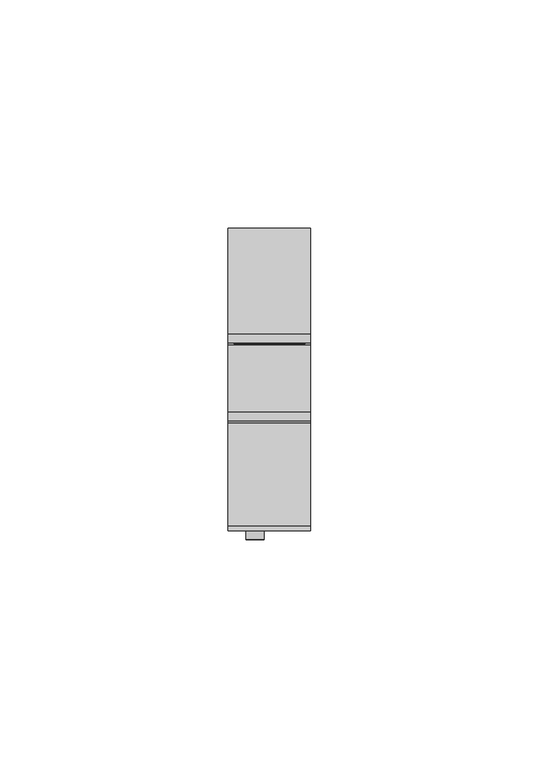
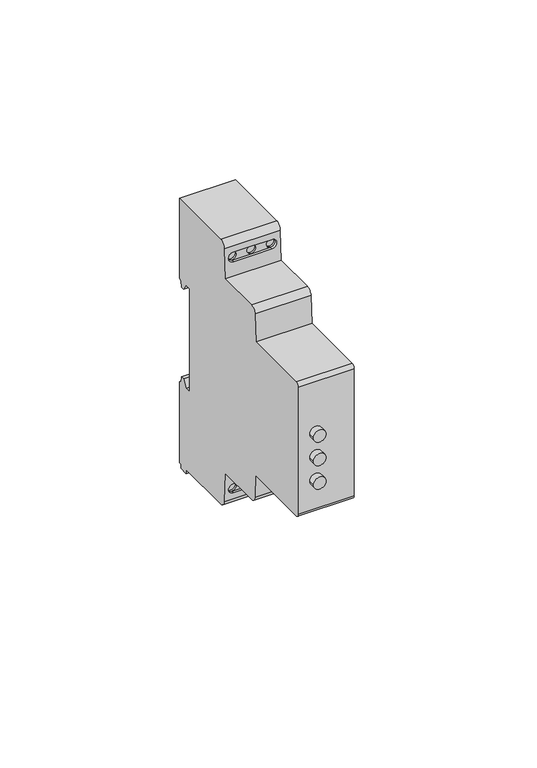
"""IFC4 building model written with IfcOpenShell, lengths in millimetres: proxy geometry, TDM_РЕЛЕ КОНТРОЛЯ НАПРЯЖЕНИЯ СЕРИИ РН 1 : 5А."""

from ifc_helpers import new_model, si_unit, point, frame, frame_2d, origin, place, context, project, spatial, polyline, circle_curve, ellipse_curve, trimmed, segment, composite_curve, outline, extrude, source, transform, mapped, element, save
from ifc_brep_helpers import plane_surface, cylinder_surface, revolved_surface, advanced_brep


def electrical_equipment_9e60928d(model_context):
    return source(origin(), model_context, "Body", "SolidModel", [
        extrude(outline(composite_curve([segment(trimmed(circle_curve(frame_2d((3.3743959, -3.125)), 2.0), [point((3.3743959, -5.125))], [point((3.3743959, -1.125))], False, "CARTESIAN"), True, "CONTINUOUS"), segment(trimmed(circle_curve(frame_2d((3.3743959, -3.125)), 2.0), [point((3.3743959, -1.125))], [point((3.3743959, -5.125))], False, "CARTESIAN"), True, "CONTINUOUS")], self_intersect=False)), frame((0.0, -30.5593993, 0.0), z_axis=(0.0, 1.0, 0.0), x_axis=(0.0, 0.0, 1.0)), (0.0, 0.0, 1.0), 3.0593993),
        extrude(outline(composite_curve([segment(trimmed(circle_curve(frame_2d((-4.6256041, -3.125)), 2.0), [point((-4.6256041, -5.125))], [point((-4.6256041, -1.125))], False, "CARTESIAN"), True, "CONTINUOUS"), segment(trimmed(circle_curve(frame_2d((-4.6256041, -3.125)), 2.0), [point((-4.6256041, -1.125))], [point((-4.6256041, -5.125))], False, "CARTESIAN"), True, "CONTINUOUS")], self_intersect=False)), frame((0.0, -30.5593993, 0.0), z_axis=(0.0, 1.0, 0.0), x_axis=(0.0, 0.0, 1.0)), (0.0, 0.0, 1.0), 3.0593993),
        extrude(outline(composite_curve([segment(trimmed(circle_curve(frame_2d((-12.6256041, -3.125)), 2.0), [point((-12.6256041, -5.125))], [point((-12.6256041, -1.125))], False, "CARTESIAN"), True, "CONTINUOUS"), segment(trimmed(circle_curve(frame_2d((-12.6256041, -3.125)), 2.0), [point((-12.6256041, -1.125))], [point((-12.6256041, -5.125))], False, "CARTESIAN"), True, "CONTINUOUS")], self_intersect=False)), frame((0.0, -30.5593993, 0.0), z_axis=(0.0, 1.0, 0.0), x_axis=(0.0, 0.0, 1.0)), (0.0, 0.0, 1.0), 3.0593993),
        extrude(outline(polyline([(7.75, 16.6821204), (7.75, 14.1138713), (-7.75, 14.1138713), (-7.75, 16.6821204), (7.75, 16.6821204)])), frame((0.0, 0.0, -44.0625), z_axis=(0.0, 0.0, 1.0), x_axis=(1.0, 0.0, 0.0)), (0.0, 0.0, 1.0), 87.8126081),
        advanced_brep(
        [(9.0, 31.7632568, 17.7057143), (9.0, 33.7632568, 17.7057143), (9.0, 35.0790621, 15.4266726), (9.0, 36.2042493, 15.4266726), (9.0, 36.5256071, 17.2491835), (9.0, 37.5, 17.8117495), (9.0, 37.5, 45.0), (9.0, 14.5, 45.0), (9.0, 12.5, 43.0), (9.0, 11.9790691, 33.0600462), (9.0, -2.6020709, 33.0600462), (9.0, -4.5993299, 31.1647181), (9.0, -5.0796325, 22.0), (9.0, -27.5777313, 22.0), (9.0, -28.7, 20.8777313), (9.0, -28.7, -22.3875602), (9.0, -27.5875602, -23.5), (9.0, -5.0010208, -23.5), (9.0, -4.5993299, -31.1647181), (9.0, -2.6020709, -33.0600462), (9.0, 11.9790691, -33.0600462), (9.0, 12.5, -43.0), (9.0, 14.5, -45.0), (9.0, 33.7, -45.0), (9.0, 33.7, -46.4), (9.0, 36.7, -46.4), (9.0, 36.7, -45.0), (9.0, 37.5, -45.0), (9.0, 37.5, -17.4003208), (9.0, 36.5256071, -16.8377548), (9.0, 36.2042493, -15.0152439), (9.0, 35.0790621, -15.0152439), (9.0, 33.7632568, -17.2942857), (9.0, 31.7632568, -17.2942857), (-9.0, 31.7632568, 17.7057143), (-9.0, 31.7632568, -17.2942857), (-9.0, 33.7632568, -17.2942857), (-9.0, 35.0790621, -15.0152439), (-9.0, 36.2042493, -15.0152439), (-9.0, 36.5256071, -16.8377548), (-9.0, 37.5, -17.4003208), (-9.0, 37.5, -45.0), (-9.0, 36.7, -45.0), (-9.0, 36.7, -46.4), (-9.0, 33.7, -46.4), (-9.0, 33.7, -45.0), (-9.0, 14.5, -45.0), (-9.0, 12.5, -43.0), (-9.0, 11.9790691, -33.0600462), (-9.0, -2.6020709, -33.0600462), (-9.0, -4.5993299, -31.1647181), (-9.0, -5.0010208, -23.5), (-9.0, -27.5875602, -23.5), (-9.0, -28.7, -22.3875602), (-9.0, -28.7, 20.8777313), (-9.0, -27.5777313, 22.0), (-9.0, -5.0796325, 22.0), (-9.0, -4.5993299, 31.1647181), (-9.0, -2.6020709, 33.0600462), (-9.0, 11.9790691, 33.0600462), (-9.0, 12.5, 43.0), (-9.0, 14.5, 45.0), (-9.0, 37.5, 45.0), (-9.0, 37.5, 17.8117495), (-9.0, 36.5256071, 17.2491835), (-9.0, 36.2042493, 15.4266726), (-9.0, 35.0790621, 15.4266726), (-9.0, 33.7632568, 17.7057143), (6.25, 13.0378948, -37.8135116), (0.0239013, 13.0378948, -37.8135116), (1.5239013, 13.0378948, -39.3135116), (0.0239013, 13.0378948, -40.8135116), (6.25, 13.0378948, -40.8135116), (4.75, 13.0378948, -39.3135116), (-6.25, 13.0378948, -37.8135116), (-4.75, 13.0378948, -39.3135116), (-6.25, 13.0378948, -40.8135116), (-1.4760987, 13.0378948, -39.3135116), (6.25, 13.0378948, 40.8135116), (0.0239013, 13.0378948, 40.8135116), (1.5239013, 13.0378948, 39.3135116), (0.0239013, 13.0378948, 37.8135116), (6.25, 13.0378948, 37.8135116), (4.75, 13.0378948, 39.3135116), (-6.25, 13.0378948, 40.8135116), (-4.75, 13.0378948, 39.3135116), (-6.25, 13.0378948, 37.8135116), (-1.4760987, 13.0378948, 39.3135116), (6.25, 12.2281877, 37.8135116), (0.0239013, 12.2281877, 37.8135116), (-6.25, 12.2281877, 37.8135116), (-7.75, 12.3067993, 39.3135116), (-6.25, 12.385411, 40.8135116), (0.0239013, 12.385411, 40.8135116), (6.25, 12.385411, 40.8135116), (7.75, 12.3067993, 39.3135116), (0.0239013, 12.2281877, -37.8135116), (6.25, 12.2281877, -37.8135116), (7.75, 12.3067993, -39.3135116), (6.25, 12.385411, -40.8135116), (0.0239013, 12.385411, -40.8135116), (-6.25, 12.385411, -40.8135116), (-7.75, 12.3067993, -39.3135116), (-6.25, 12.2281877, -37.8135116), (-7.75, 13.0378948, -39.3135116), (7.75, 13.0378948, -39.3135116), (7.75, 13.0378948, 39.3135116), (-7.75, 13.0378948, 39.3135116), (-4.75, 15.2465164, -39.3135116), (-7.75, 15.2465164, -39.3135116), (1.5239013, 15.2465164, -39.3135116), (-1.4760987, 15.2465164, -39.3135116), (4.75, 15.2465164, -39.3135116), (7.75, 15.2465164, -39.3135116), (-4.75, 15.2465164, 39.3135116), (-7.75, 15.2465164, 39.3135116), (1.5239013, 15.2465164, 39.3135116), (-1.4760987, 15.2465164, 39.3135116), (4.75, 15.2465164, 39.3135116), (7.75, 15.2465164, 39.3135116)],
        [
            (0, 1),
            (1, 2),
            (2, 3),
            (3, 4),
            (4, 5),
            (5, 6),
            (6, 7),
            (7, 8, circle_curve(frame((9.0, 14.5, 43.0), z_axis=(1.0, 0.0, 0.0), x_axis=(0.0, -1.0, 0.0)), 2.0)),
            (8, 9),
            (9, 10),
            (10, 11, circle_curve(frame((9.0, -2.6020709, 31.0600462), z_axis=(1.0, 0.0, 0.0), x_axis=(0.0, -1.0, 0.0)), 2.0)),
            (11, 12),
            (12, 13),
            (13, 14, circle_curve(frame((9.0, -27.5777313, 20.8777313), z_axis=(1.0, 0.0, 0.0), x_axis=(0.0, -1.0, 0.0)), 1.1222687)),
            (14, 15),
            (15, 16, circle_curve(frame((9.0, -27.5875602, -22.3875602), z_axis=(1.0, 0.0, 0.0), x_axis=(0.0, -1.0, 0.0)), 1.1124398)),
            (16, 17),
            (17, 18),
            (18, 19, circle_curve(frame((9.0, -2.6020709, -31.0600462), z_axis=(1.0, 0.0, 0.0), x_axis=(0.0, -1.0, 0.0)), 2.0)),
            (19, 20),
            (20, 21),
            (21, 22, circle_curve(frame((9.0, 14.5, -43.0), z_axis=(1.0, 0.0, 0.0), x_axis=(0.0, -1.0, 0.0)), 2.0)),
            (22, 23),
            (23, 24),
            (24, 25),
            (25, 26),
            (26, 27),
            (27, 28),
            (28, 29),
            (29, 30),
            (30, 31),
            (31, 32),
            (32, 33),
            (33, 0),
            (34, 35),
            (35, 36),
            (36, 37),
            (37, 38),
            (38, 39),
            (39, 40),
            (40, 41),
            (41, 42),
            (42, 43),
            (43, 44),
            (44, 45),
            (45, 46),
            (46, 47, circle_curve(frame((-9.0, 14.5, -43.0), z_axis=(-1.0, 0.0, 0.0), x_axis=(0.0, -1.0, 0.0)), 2.0)),
            (47, 48),
            (48, 49),
            (49, 50, circle_curve(frame((-9.0, -2.6020709, -31.0600462), z_axis=(-1.0, 0.0, 0.0), x_axis=(0.0, -1.0, 0.0)), 2.0)),
            (50, 51),
            (51, 52),
            (52, 53, circle_curve(frame((-9.0, -27.5875602, -22.3875602), z_axis=(-1.0, 0.0, 0.0), x_axis=(0.0, -1.0, 0.0)), 1.1124398)),
            (53, 54),
            (54, 55, circle_curve(frame((-9.0, -27.5777313, 20.8777313), z_axis=(-1.0, 0.0, 0.0), x_axis=(0.0, -1.0, 0.0)), 1.1222687)),
            (55, 56),
            (56, 57),
            (57, 58, circle_curve(frame((-9.0, -2.6020709, 31.0600462), z_axis=(-1.0, 0.0, 0.0), x_axis=(0.0, -1.0, 0.0)), 2.0)),
            (58, 59),
            (59, 60),
            (60, 61, circle_curve(frame((-9.0, 14.5, 43.0), z_axis=(-1.0, 0.0, 0.0), x_axis=(0.0, -1.0, 0.0)), 2.0)),
            (61, 62),
            (62, 63),
            (63, 64),
            (64, 65),
            (65, 66),
            (66, 67),
            (67, 34),
            (68, 69),
            (69, 70, circle_curve(frame((0.0239013, 13.0378948, -39.3135116), z_axis=(0.0, 1.0, 0.0), x_axis=(-1.0, 0.0, 0.0)), 1.5)),
            (70, 71, circle_curve(frame((0.0239013, 13.0378948, -39.3135116), z_axis=(0.0, 1.0, 0.0), x_axis=(-1.0, 0.0, 0.0)), 1.5)),
            (71, 72),
            (72, 73, circle_curve(frame((6.25, 13.0378948, -39.3135116), z_axis=(0.0, 1.0, 0.0), x_axis=(1.0, 0.0, 0.0)), 1.5)),
            (73, 68, circle_curve(frame((6.25, 13.0378948, -39.3135116), z_axis=(0.0, 1.0, 0.0), x_axis=(1.0, 0.0, 0.0)), 1.5)),
            (69, 74),
            (74, 75, circle_curve(frame((-6.25, 13.0378948, -39.3135116), z_axis=(0.0, 1.0, 0.0), x_axis=(-1.0, 0.0, 0.0)), 1.5)),
            (75, 76, circle_curve(frame((-6.25, 13.0378948, -39.3135116), z_axis=(0.0, 1.0, 0.0), x_axis=(-1.0, 0.0, 0.0)), 1.5)),
            (76, 71),
            (71, 77, circle_curve(frame((0.0239013, 13.0378948, -39.3135116), z_axis=(0.0, 1.0, 0.0), x_axis=(-1.0, 0.0, 0.0)), 1.5)),
            (77, 69, circle_curve(frame((0.0239013, 13.0378948, -39.3135116), z_axis=(0.0, 1.0, 0.0), x_axis=(-1.0, 0.0, 0.0)), 1.5)),
            (78, 79),
            (79, 80, circle_curve(frame((0.0239013, 13.0378948, 39.3135116), z_axis=(0.0, 1.0, 0.0), x_axis=(-1.0, 0.0, 0.0)), 1.5)),
            (80, 81, circle_curve(frame((0.0239013, 13.0378948, 39.3135116), z_axis=(0.0, 1.0, 0.0), x_axis=(-1.0, 0.0, 0.0)), 1.5)),
            (81, 82),
            (82, 83, circle_curve(frame((6.25, 13.0378948, 39.3135116), z_axis=(0.0, 1.0, 0.0), x_axis=(1.0, 0.0, 0.0)), 1.5)),
            (83, 78, circle_curve(frame((6.25, 13.0378948, 39.3135116), z_axis=(0.0, 1.0, 0.0), x_axis=(1.0, 0.0, 0.0)), 1.5)),
            (79, 84),
            (84, 85, circle_curve(frame((-6.25, 13.0378948, 39.3135116), z_axis=(0.0, 1.0, 0.0), x_axis=(-1.0, 0.0, 0.0)), 1.5)),
            (85, 86, circle_curve(frame((-6.25, 13.0378948, 39.3135116), z_axis=(0.0, 1.0, 0.0), x_axis=(-1.0, 0.0, 0.0)), 1.5)),
            (86, 81),
            (81, 87, circle_curve(frame((0.0239013, 13.0378948, 39.3135116), z_axis=(0.0, 1.0, 0.0), x_axis=(-1.0, 0.0, 0.0)), 1.5)),
            (87, 79, circle_curve(frame((0.0239013, 13.0378948, 39.3135116), z_axis=(0.0, 1.0, 0.0), x_axis=(-1.0, 0.0, 0.0)), 1.5)),
            (0, 34),
            (67, 1),
            (66, 2),
            (65, 3),
            (64, 4),
            (63, 5),
            (62, 6),
            (61, 7),
            (60, 8),
            (59, 9),
            (88, 89),
            (89, 90),
            (90, 91, ellipse_curve(frame((-6.25, 12.3067993, 39.3135116), z_axis=(0.0, 0.9986295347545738, -0.052335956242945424), x_axis=(0.0, -0.052335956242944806, -0.9986295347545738)), 1.5020585, 1.5)),
            (91, 92, ellipse_curve(frame((-6.25, 12.3067993, 39.3135116), z_axis=(0.0, 0.9986295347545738, -0.052335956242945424), x_axis=(0.0, -0.052335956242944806, -0.9986295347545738)), 1.5020585, 1.5)),
            (92, 93),
            (93, 94),
            (94, 95, ellipse_curve(frame((6.25, 12.3067993, 39.3135116), z_axis=(0.0, 0.9986295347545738, -0.052335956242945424), x_axis=(0.0, -0.052335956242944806, -0.9986295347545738)), 1.5020585, 1.5)),
            (95, 88, ellipse_curve(frame((6.25, 12.3067993, 39.3135116), z_axis=(0.0, 0.9986295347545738, -0.052335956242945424), x_axis=(0.0, -0.052335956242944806, -0.9986295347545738)), 1.5020585, 1.5)),
            (58, 10),
            (57, 11),
            (56, 12),
            (55, 13),
            (54, 14),
            (53, 15),
            (16, 52),
            (51, 17),
            (50, 18),
            (49, 19),
            (48, 20),
            (47, 21),
            (96, 97),
            (97, 98, ellipse_curve(frame((6.25, 12.3067993, -39.3135116), z_axis=(0.0, 0.9986295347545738, 0.05233595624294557), x_axis=(0.0, -0.05233595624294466, 0.9986295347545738)), 1.5020585, 1.5)),
            (98, 99, ellipse_curve(frame((6.25, 12.3067993, -39.3135116), z_axis=(0.0, 0.9986295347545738, 0.05233595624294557), x_axis=(0.0, -0.05233595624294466, 0.9986295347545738)), 1.5020585, 1.5)),
            (99, 100),
            (100, 101),
            (101, 102, ellipse_curve(frame((-6.25, 12.3067993, -39.3135116), z_axis=(0.0, 0.9986295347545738, 0.05233595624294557), x_axis=(0.0, -0.05233595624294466, 0.9986295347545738)), 1.5020585, 1.5)),
            (102, 103, ellipse_curve(frame((-6.25, 12.3067993, -39.3135116), z_axis=(0.0, 0.9986295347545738, 0.05233595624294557), x_axis=(0.0, -0.05233595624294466, 0.9986295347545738)), 1.5020585, 1.5)),
            (103, 96),
            (46, 22),
            (45, 23),
            (24, 44),
            (43, 25),
            (42, 26),
            (27, 41),
            (40, 28),
            (39, 29),
            (38, 30),
            (37, 31),
            (36, 32),
            (35, 33),
            (68, 97),
            (103, 74),
            (101, 76),
            (76, 104, circle_curve(frame((-6.25, 13.0378948, -39.3135116), z_axis=(0.0, 1.0, 0.0), x_axis=(-1.0, 0.0, 0.0)), 1.5)),
            (104, 74, circle_curve(frame((-6.25, 13.0378948, -39.3135116), z_axis=(0.0, 1.0, 0.0), x_axis=(-1.0, 0.0, 0.0)), 1.5)),
            (99, 72),
            (68, 105, circle_curve(frame((6.25, 13.0378948, -39.3135116), z_axis=(0.0, 1.0, 0.0), x_axis=(1.0, 0.0, 0.0)), 1.5)),
            (105, 72, circle_curve(frame((6.25, 13.0378948, -39.3135116), z_axis=(0.0, 1.0, 0.0), x_axis=(1.0, 0.0, 0.0)), 1.5)),
            (82, 88),
            (94, 78),
            (78, 106, circle_curve(frame((6.25, 13.0378948, 39.3135116), z_axis=(0.0, 1.0, 0.0), x_axis=(1.0, 0.0, 0.0)), 1.5)),
            (106, 82, circle_curve(frame((6.25, 13.0378948, 39.3135116), z_axis=(0.0, 1.0, 0.0), x_axis=(1.0, 0.0, 0.0)), 1.5)),
            (92, 84),
            (90, 86),
            (86, 107, circle_curve(frame((-6.25, 13.0378948, 39.3135116), z_axis=(0.0, 1.0, 0.0), x_axis=(-1.0, 0.0, 0.0)), 1.5)),
            (107, 84, circle_curve(frame((-6.25, 13.0378948, 39.3135116), z_axis=(0.0, 1.0, 0.0), x_axis=(-1.0, 0.0, 0.0)), 1.5)),
            (108, 109, circle_curve(frame((-6.25, 15.2465164, -39.3135116), z_axis=(0.0, -1.0, 0.0), x_axis=(-1.0, 0.0, 0.0)), 1.5)),
            (109, 108, circle_curve(frame((-6.25, 15.2465164, -39.3135116), z_axis=(0.0, -1.0, 0.0), x_axis=(-1.0, 0.0, 0.0)), 1.5)),
            (110, 111, circle_curve(frame((0.0239013, 15.2465164, -39.3135116), z_axis=(0.0, -1.0, 0.0), x_axis=(-1.0, 0.0, 0.0)), 1.5)),
            (111, 110, circle_curve(frame((0.0239013, 15.2465164, -39.3135116), z_axis=(0.0, -1.0, 0.0), x_axis=(-1.0, 0.0, 0.0)), 1.5)),
            (112, 113, circle_curve(frame((6.25, 15.2465164, -39.3135116), z_axis=(0.0, -1.0, 0.0), x_axis=(1.0, 0.0, 0.0)), 1.5)),
            (113, 112, circle_curve(frame((6.25, 15.2465164, -39.3135116), z_axis=(0.0, -1.0, 0.0), x_axis=(1.0, 0.0, 0.0)), 1.5)),
            (114, 115, circle_curve(frame((-6.25, 15.2465164, 39.3135116), z_axis=(0.0, -1.0, 0.0), x_axis=(-1.0, 0.0, 0.0)), 1.5)),
            (115, 114, circle_curve(frame((-6.25, 15.2465164, 39.3135116), z_axis=(0.0, -1.0, 0.0), x_axis=(-1.0, 0.0, 0.0)), 1.5)),
            (116, 117, circle_curve(frame((0.0239013, 15.2465164, 39.3135116), z_axis=(0.0, -1.0, 0.0), x_axis=(-1.0, 0.0, 0.0)), 1.5)),
            (117, 116, circle_curve(frame((0.0239013, 15.2465164, 39.3135116), z_axis=(0.0, -1.0, 0.0), x_axis=(-1.0, 0.0, 0.0)), 1.5)),
            (118, 119, circle_curve(frame((6.25, 15.2465164, 39.3135116), z_axis=(0.0, -1.0, 0.0), x_axis=(1.0, 0.0, 0.0)), 1.5)),
            (119, 118, circle_curve(frame((6.25, 15.2465164, 39.3135116), z_axis=(0.0, -1.0, 0.0), x_axis=(1.0, 0.0, 0.0)), 1.5)),
            (108, 75),
            (104, 109),
            (110, 70),
            (77, 111),
            (112, 73),
            (105, 113),
            (114, 85),
            (107, 115),
            (116, 80),
            (87, 117),
            (118, 83),
            (106, 119),
        ],
        [
            plane_surface(frame((9.0, 31.7632568, 17.7057143), z_axis=(1.0, 0.0, 0.0), x_axis=(0.0, 1.0, 0.0))),
            plane_surface(frame((-9.0, 31.7632568, 17.7057143), z_axis=(-1.0, 0.0, 0.0), x_axis=(0.0, -1.0, 0.0))),
            plane_surface(frame((-7.75, 13.0378948, -37.8135116), z_axis=(0.0, -1.0, 0.0), x_axis=(1.0, 0.0, 0.0))),
            plane_surface(frame((9.0, 31.7632568, 17.7057143), z_axis=(0.0, 0.0, -1.0), x_axis=(-1.0, 0.0, 0.0))),
            plane_surface(frame((9.0, 33.7632568, 17.7057143), z_axis=(0.0, -0.8660254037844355, -0.5000000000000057), x_axis=(-1.0, 0.0, 0.0))),
            plane_surface(frame((9.0, 35.0790621, 15.4266726), z_axis=(0.0, 0.0, -1.0), x_axis=(-1.0, 0.0, 0.0))),
            plane_surface(frame((9.0, 36.2042493, 15.4266726), z_axis=(0.0, 0.984807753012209, -0.17364817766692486), x_axis=(-1.0, 0.0, 0.0))),
            plane_surface(frame((9.0, 36.5256071, 17.2491835), z_axis=(0.0, 0.5000000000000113, -0.8660254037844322), x_axis=(-1.0, 0.0, 0.0))),
            plane_surface(frame((9.0, 37.5, 17.8117495), z_axis=(0.0, 1.0, 0.0), x_axis=(-1.0, 0.0, 0.0))),
            plane_surface(frame((9.0, 37.5, 45.0), z_axis=(0.0, 0.0, 1.0), x_axis=(-1.0, 0.0, 0.0))),
            cylinder_surface(frame((-9.0, 14.5, 43.0), z_axis=(1.0, 0.0, 0.0), x_axis=(0.0, -1.0, 0.0)), 2.0),
            plane_surface(frame((9.0, 12.5, 43.0), z_axis=(0.0, -0.9986295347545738, 0.052335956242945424), x_axis=(-1.0, 0.0, 0.0))),
            plane_surface(frame((9.0, 11.9790691, 33.0600462), z_axis=(0.0, 0.0, 1.0), x_axis=(-1.0, 0.0, 0.0))),
            cylinder_surface(frame((-9.0, -2.6020709, 31.0600462), z_axis=(1.0, 0.0, 0.0), x_axis=(0.0, -1.0, 0.0)), 2.0),
            plane_surface(frame((9.0, -4.5993299, 31.1647181), z_axis=(0.0, -0.9986295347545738, 0.052335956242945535), x_axis=(-1.0, 0.0, 0.0))),
            plane_surface(frame((9.0, -5.0796325, 22.0), z_axis=(0.0, 0.0, 1.0), x_axis=(-1.0, 0.0, 0.0))),
            cylinder_surface(frame((-9.0, -27.5777313, 20.8777313), z_axis=(1.0, 0.0, 0.0), x_axis=(0.0, -1.0, 0.0)), 1.1222687),
            plane_surface(frame((9.0, -28.7, 20.8777313), z_axis=(0.0, -1.0, 0.0), x_axis=(-1.0, 0.0, 0.0))),
            plane_surface(frame((9.0, -27.5875602, -23.5), z_axis=(0.0, 0.0, -1.0), x_axis=(-1.0, 0.0, 0.0))),
            plane_surface(frame((9.0, -5.0010208, -23.5), z_axis=(0.0, -0.9986295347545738, -0.05233595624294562), x_axis=(-1.0, 0.0, 0.0))),
            cylinder_surface(frame((-9.0, -2.6020709, -31.0600462), z_axis=(1.0, 0.0, 0.0), x_axis=(0.0, -1.0, 0.0)), 2.0),
            plane_surface(frame((9.0, -2.6020709, -33.0600462), z_axis=(0.0, 0.0, -1.0), x_axis=(-1.0, 0.0, 0.0))),
            plane_surface(frame((9.0, 11.9790691, -33.0600462), z_axis=(0.0, -0.9986295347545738, -0.05233595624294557), x_axis=(-1.0, 0.0, 0.0))),
            cylinder_surface(frame((-9.0, 14.5, -43.0), z_axis=(1.0, 0.0, 0.0), x_axis=(0.0, -1.0, 0.0)), 2.0),
            plane_surface(frame((9.0, 14.5, -45.0), z_axis=(0.0, 0.0, -1.0), x_axis=(-1.0, 0.0, 0.0))),
            plane_surface(frame((9.0, 33.7, -46.4), z_axis=(0.0, 0.0, -1.0), x_axis=(-1.0, 0.0, 0.0))),
            plane_surface(frame((9.0, 36.7, -46.4), z_axis=(0.0, 1.0, 0.0), x_axis=(-1.0, 0.0, 0.0))),
            plane_surface(frame((9.0, 37.5, -45.0), z_axis=(0.0, 1.0, 0.0), x_axis=(-1.0, 0.0, 0.0))),
            plane_surface(frame((9.0, 37.5, -17.4003208), z_axis=(0.0, 0.5000000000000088, 0.8660254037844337), x_axis=(-1.0, 0.0, 0.0))),
            plane_surface(frame((9.0, 36.5256071, -16.8377548), z_axis=(0.0, 0.9848077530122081, 0.17364817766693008), x_axis=(-1.0, 0.0, 0.0))),
            plane_surface(frame((9.0, 36.2042493, -15.0152439), z_axis=(0.0, 0.0, 1.0), x_axis=(-1.0, 0.0, 0.0))),
            plane_surface(frame((9.0, 35.0790621, -15.0152439), z_axis=(0.0, -0.8660254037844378, 0.5000000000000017), x_axis=(-1.0, 0.0, 0.0))),
            plane_surface(frame((9.0, 33.7632568, -17.2942857), z_axis=(0.0, 0.0, 1.0), x_axis=(-1.0, 0.0, 0.0))),
            plane_surface(frame((9.0, 31.7632568, -17.2942857), z_axis=(0.0, 1.0, 0.0), x_axis=(-1.0, 0.0, 0.0))),
            cylinder_surface(frame((-9.0, -27.5875602, -22.3875602), z_axis=(1.0, 0.0, 0.0), x_axis=(0.0, -1.0, 0.0)), 1.1124398),
            plane_surface(frame((6.25, 0.0, -37.8135116), z_axis=(0.0, 0.0, -1.0), x_axis=(0.0, 1.0, 0.0))),
            revolved_surface(polyline([(-7.75, 12.228187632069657, -39.3135116), (-7.75, 13.0378948, -39.3135116)]), (-6.25, 13.0378948, -39.3135116), (0.0, -1.0, 0.0)),
            plane_surface(frame((-6.25, 0.0, -40.8135116), z_axis=(0.0, 0.0, 1.0), x_axis=(0.0, 1.0, 0.0))),
            revolved_surface(polyline([(7.75, 12.228187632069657, -39.3135116), (7.75, 13.0378948, -39.3135116)]), (6.25, 13.0378948, -39.3135116), (0.0, -1.0, 0.0)),
            revolved_surface(polyline([(7.75, 12.228187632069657, 39.3135116), (7.75, 13.0378948, 39.3135116)]), (6.25, 0.0, 39.3135116), (0.0, -1.0, 0.0)),
            plane_surface(frame((6.25, 0.0, 40.8135116), z_axis=(0.0, 0.0, -1.0), x_axis=(0.0, 1.0, 0.0))),
            revolved_surface(polyline([(-7.75, 12.228187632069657, 39.3135116), (-7.75, 13.0378948, 39.3135116)]), (-6.25, 0.0, 39.3135116), (0.0, -1.0, 0.0)),
            plane_surface(frame((-6.25, 0.0, 37.8135116), z_axis=(0.0, 0.0, 1.0), x_axis=(0.0, 1.0, 0.0))),
            plane_surface(frame((-7.75, 15.2465164, -39.3135116), z_axis=(0.0, -1.0, 0.0), x_axis=(0.0, 0.0, 1.0))),
            revolved_surface(polyline([(-7.75, 13.0378948, -39.3135116), (-7.75, 15.2465164, -39.3135116)]), (-6.25, 15.2465164, -39.3135116), (0.0, -1.0, 0.0)),
            revolved_surface(polyline([(-1.4760987, 13.0378948, -39.3135116), (-1.4760987, 15.2465164, -39.3135116)]), (0.0239013, 0.0, -39.3135116), (0.0, -1.0, 0.0)),
            revolved_surface(polyline([(7.75, 13.0378948, -39.3135116), (7.75, 15.2465164, -39.3135116)]), (6.25, 0.0, -39.3135116), (0.0, -1.0, 0.0)),
            revolved_surface(polyline([(-7.75, 13.0378948, 39.3135116), (-7.75, 15.2465164, 39.3135116)]), (-6.25, 0.0, 39.3135116), (0.0, -1.0, 0.0)),
            revolved_surface(polyline([(-1.4760987, 13.0378948, 39.3135116), (-1.4760987, 15.2465164, 39.3135116)]), (0.0239013, 0.0, 39.3135116), (0.0, -1.0, 0.0)),
            revolved_surface(polyline([(7.75, 13.0378948, 39.3135116), (7.75, 15.2465164, 39.3135116)]), (6.25, 0.0, 39.3135116), (0.0, -1.0, 0.0)),
            plane_surface(frame((9.0, 33.7, -45.0), z_axis=(0.0, -1.0, 0.0), x_axis=(-1.0, 0.0, 0.0))),
            plane_surface(frame((9.0, 36.7, -45.0), z_axis=(0.0, 0.0, -1.0), x_axis=(-1.0, 0.0, 0.0))),
        ],
        [
            (0, [[1, 2, 3, 4, 5, 6, 7, 8, 9, 10, 11, 12, 13, 14, 15, 16, 17, 18, 19, 20, 21, 22, 23, 24, 25, 26, 27, 28, 29, 30, 31, 32, 33, 34]]),
            (1, [[35, 36, 37, 38, 39, 40, 41, 42, 43, 44, 45, 46, 47, 48, 49, 50, 51, 52, 53, 54, 55, 56, 57, 58, 59, 60, 61, 62, 63, 64, 65, 66, 67, 68]]),
            (2, [[69, 70, 71, 72, 73, 74]]),
            (2, [[75, 76, 77, 78, 79, 80]]),
            (2, [[81, 82, 83, 84, 85, 86]]),
            (2, [[87, 88, 89, 90, 91, 92]]),
            (3, [[-1, 93, -68, 94]]),
            (4, [[-2, -94, -67, 95]]),
            (5, [[-3, -95, -66, 96]]),
            (6, [[-4, -96, -65, 97]]),
            (7, [[-5, -97, -64, 98]]),
            (8, [[-6, -98, -63, 99]]),
            (9, [[-7, -99, -62, 100]]),
            (10, [[-8, -100, -61, 101]]),
            (11, [[-9, -101, -60, 102], [103, 104, 105, 106, 107, 108, 109, 110]]),
            (12, [[-10, -102, -59, 111]]),
            (13, [[-11, -111, -58, 112]]),
            (14, [[-12, -112, -57, 113]]),
            (15, [[-13, -113, -56, 114]]),
            (16, [[-14, -114, -55, 115]]),
            (17, [[-15, -115, -54, 116]]),
            (18, [[-17, 117, -52, 118]]),
            (19, [[-18, -118, -51, 119]]),
            (20, [[-19, -119, -50, 120]]),
            (21, [[-20, -120, -49, 121]]),
            (22, [[-21, -121, -48, 122], [123, 124, 125, 126, 127, 128, 129, 130]]),
            (23, [[-22, -122, -47, 131]]),
            (24, [[-23, -131, -46, 132]]),
            (25, [[-25, 133, -44, 134]]),
            (26, [[-26, -134, -43, 135]]),
            (27, [[-28, 136, -41, 137]]),
            (28, [[-29, -137, -40, 138]]),
            (29, [[-30, -138, -39, 139]]),
            (30, [[-31, -139, -38, 140]]),
            (31, [[-32, -140, -37, 141]]),
            (32, [[-33, -141, -36, 142]]),
            (33, [[-34, -142, -35, -93]]),
            (34, [[-16, -116, -53, -117]]),
            (35, [[143, -123, -130, 144, -75, -69]]),
            (36, [[-144, -129, -128, 145, 146, 147]]),
            (37, [[-145, -127, -126, 148, -72, -78]]),
            (38, [[-143, 149, 150, -148, -125, -124]]),
            (39, [[151, -110, -109, 152, 153, 154]]),
            (40, [[-152, -108, -107, 155, -87, -81]]),
            (41, [[-155, -106, -105, 156, 157, 158]]),
            (42, [[-151, -84, -90, -156, -104, -103]]),
            (43, [[159, 160]]),
            (43, [[161, 162]]),
            (43, [[163, 164]]),
            (43, [[165, 166]]),
            (43, [[167, 168]]),
            (43, [[169, 170]]),
            (44, [[-159, 171, -76, -147, 172]]),
            (44, [[-160, -172, -146, -77, -171]]),
            (45, [[-161, 173, -70, -80, 174]]),
            (45, [[-162, -174, -79, -71, -173]]),
            (46, [[-163, 175, -73, -150, 176]]),
            (46, [[-164, -176, -149, -74, -175]]),
            (47, [[-165, 177, -88, -158, 178]]),
            (47, [[-166, -178, -157, -89, -177]]),
            (48, [[-167, 179, -82, -92, 180]]),
            (48, [[-168, -180, -91, -83, -179]]),
            (49, [[-169, 181, -85, -154, 182]]),
            (49, [[-170, -182, -153, -86, -181]]),
            (50, [[-24, -132, -45, -133]]),
            (51, [[-27, -135, -42, -136]]),
        ],
    ),
    ])


if __name__ == "__main__":
    model = new_model("IFC4")
    model_context = context("Model", 3, world=origin())
    ifc_project = project(units=[si_unit("LENGTHUNIT", "METRE", prefix="MILLI")], contexts=[model_context])
    site = spatial("IfcSite", under=ifc_project)
    building = spatial("IfcBuilding", under=site)
    placement = place(None, origin())
    electrical_equipment_shape = electrical_equipment_9e60928d(model_context)
    element("IfcBuildingElementProxy", 1, Name="TDM_РЕЛЕ КОНТРОЛЯ НАПРЯЖЕНИЯ СЕРИИ РН 1 : 5А", ObjectType="TDM_РЕЛЕ КОНТРОЛЯ НАПРЯЖЕНИЯ СЕРИИ РН 1 : 5А", at=placement, inside=building, context=model_context, shape_type="MappedRepresentation", body=[
        mapped(electrical_equipment_shape, transform((0.0, 0.0, 0.0), x_axis=(1.0, 0.0, 0.0), y_axis=(0.0, 1.0, 0.0), z_axis=(0.0, 0.0, 1.0))),
    ])
    save(model, "model.ifc")
